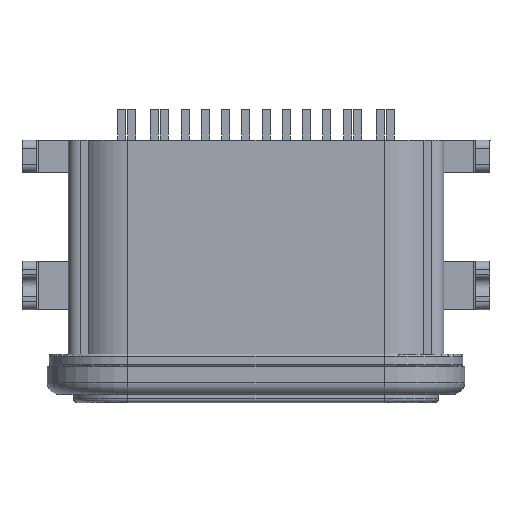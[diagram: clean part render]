
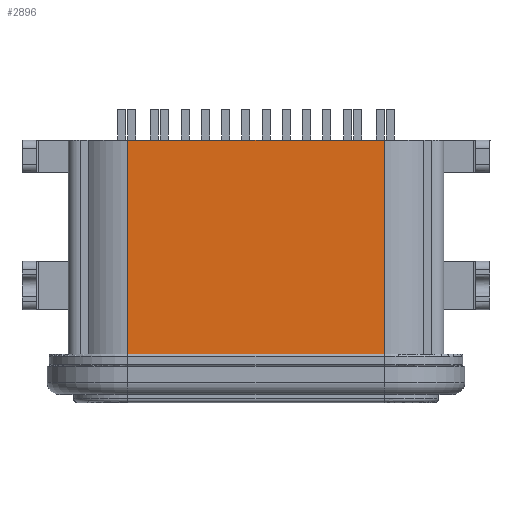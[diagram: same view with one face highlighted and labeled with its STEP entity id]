
A CAD part, front view. The second image highlights one B-rep face of the part: STEP entity #2896.
In plain terms, the highlighted planar face has unit normal (0, -1, 0) as drawn and (0, 1, 0) by its records, which use the part's own axes.
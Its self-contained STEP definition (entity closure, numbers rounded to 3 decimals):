
#15 = CARTESIAN_POINT ( 'NONE',  ( -3.17, 1.63, -6.35 ) ) ;
#522 = PLANE ( 'NONE',  #4633 ) ;
#609 = CARTESIAN_POINT ( 'NONE',  ( 3.17, 1.63, -1.05 ) ) ;
#664 = VERTEX_POINT ( 'NONE', #12967 ) ;
#1067 = EDGE_CURVE ( 'NONE', #11855, #13548, #14103, .T. ) ;
#1631 = CARTESIAN_POINT ( 'NONE',  ( 3.17, 1.63, -1.05 ) ) ;
#2182 = FACE_OUTER_BOUND ( 'NONE', #13606, .T. ) ;
#2896 = ADVANCED_FACE ( 'NONE', ( #2182 ), #522, .T. ) ;
#3253 = EDGE_CURVE ( 'NONE', #664, #13456, #4111, .T. ) ;
#3508 = CARTESIAN_POINT ( 'NONE',  ( 1.057, 1.63, -1.05 ) ) ;
#3912 = CARTESIAN_POINT ( 'NONE',  ( 3.17, 1.63, -2.817 ) ) ;
#4049 = DIRECTION ( 'NONE',  ( 0., 1., 0. ) ) ;
#4111 = B_SPLINE_CURVE_WITH_KNOTS ( 'NONE', 3,
 ( #7565, #4142, #3912, #609 ),
 .UNSPECIFIED., .F., .F.,
 ( 4, 4 ),
 ( 0., 1. ),
 .UNSPECIFIED. ) ;
#4142 = CARTESIAN_POINT ( 'NONE',  ( 3.17, 1.63, -4.583 ) ) ;
#4633 = AXIS2_PLACEMENT_3D ( 'NONE', #20164, #4049, #18384 ) ;
#4935 = B_SPLINE_CURVE_WITH_KNOTS ( 'NONE', 3,
 ( #12293, #20885, #10414, #13700 ),
 .UNSPECIFIED., .F., .F.,
 ( 4, 4 ),
 ( 0., 1. ),
 .UNSPECIFIED. ) ;
#5160 = CARTESIAN_POINT ( 'NONE',  ( -3.17, 1.63, -1.05 ) ) ;
#5185 = CARTESIAN_POINT ( 'NONE',  ( -3.17, 1.63, -1.05 ) ) ;
#5648 = CARTESIAN_POINT ( 'NONE',  ( -3.17, 1.63, -2.817 ) ) ;
#5690 = CARTESIAN_POINT ( 'NONE',  ( -3.17, 1.63, -6.35 ) ) ;
#7161 = CARTESIAN_POINT ( 'NONE',  ( -1.057, 1.63, -1.05 ) ) ;
#7565 = CARTESIAN_POINT ( 'NONE',  ( 3.17, 1.63, -6.35 ) ) ;
#8755 = ORIENTED_EDGE ( 'NONE', *, *, #18780, .T. ) ;
#9493 = CARTESIAN_POINT ( 'NONE',  ( -3.17, 1.63, -1.05 ) ) ;
#10414 = CARTESIAN_POINT ( 'NONE',  ( -1.057, 1.63, -6.35 ) ) ;
#11855 = VERTEX_POINT ( 'NONE', #5690 ) ;
#12293 = CARTESIAN_POINT ( 'NONE',  ( 3.17, 1.63, -6.35 ) ) ;
#12967 = CARTESIAN_POINT ( 'NONE',  ( 3.17, 1.63, -6.35 ) ) ;
#13456 = VERTEX_POINT ( 'NONE', #13640 ) ;
#13548 = VERTEX_POINT ( 'NONE', #9493 ) ;
#13606 = EDGE_LOOP ( 'NONE', ( #13973, #14312, #8755, #18982 ) ) ;
#13640 = CARTESIAN_POINT ( 'NONE',  ( 3.17, 1.63, -1.05 ) ) ;
#13700 = CARTESIAN_POINT ( 'NONE',  ( -3.17, 1.63, -6.35 ) ) ;
#13973 = ORIENTED_EDGE ( 'NONE', *, *, #15776, .T. ) ;
#14103 = B_SPLINE_CURVE_WITH_KNOTS ( 'NONE', 3,
 ( #15, #14560, #5648, #5185 ),
 .UNSPECIFIED., .F., .F.,
 ( 4, 4 ),
 ( 0., 1. ),
 .UNSPECIFIED. ) ;
#14312 = ORIENTED_EDGE ( 'NONE', *, *, #3253, .F. ) ;
#14560 = CARTESIAN_POINT ( 'NONE',  ( -3.17, 1.63, -4.583 ) ) ;
#15360 = B_SPLINE_CURVE_WITH_KNOTS ( 'NONE', 3,
 ( #5160, #7161, #3508, #1631 ),
 .UNSPECIFIED., .F., .F.,
 ( 4, 4 ),
 ( 0., 1. ),
 .UNSPECIFIED. ) ;
#15776 = EDGE_CURVE ( 'NONE', #13548, #13456, #15360, .T. ) ;
#18384 = DIRECTION ( 'NONE',  ( 1., 0., 0. ) ) ;
#18780 = EDGE_CURVE ( 'NONE', #664, #11855, #4935, .T. ) ;
#18982 = ORIENTED_EDGE ( 'NONE', *, *, #1067, .T. ) ;
#20164 = CARTESIAN_POINT ( 'NONE',  ( -3.17, 1.63, -6.35 ) ) ;
#20885 = CARTESIAN_POINT ( 'NONE',  ( 1.057, 1.63, -6.35 ) ) ;
